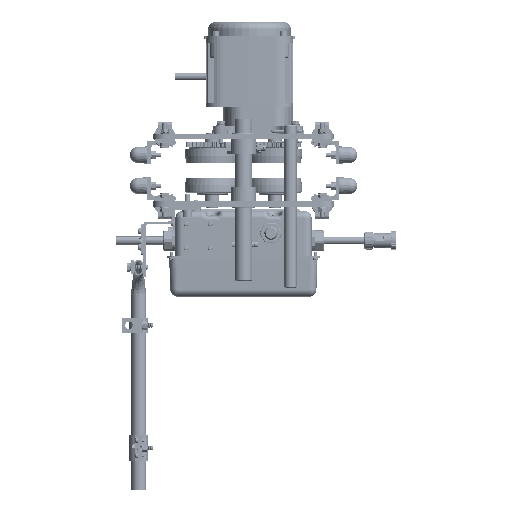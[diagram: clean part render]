
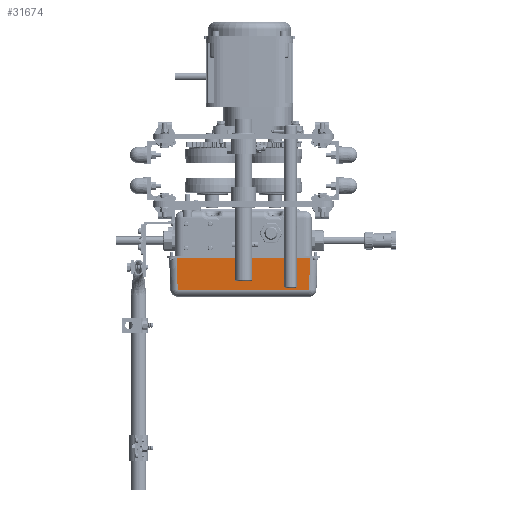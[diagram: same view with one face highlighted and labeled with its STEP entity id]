
A CAD part, front view. The second image highlights one B-rep face of the part: STEP entity #31674.
In plain terms, the highlighted planar face has unit normal (0, -0.999, -0.035) as drawn and (-0.035, -0.999, 0) by its records, which use the part's own axes.
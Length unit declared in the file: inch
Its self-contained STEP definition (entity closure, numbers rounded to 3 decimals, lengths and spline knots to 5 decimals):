
#2809 = VERTEX_POINT ( 'NONE', #134232 ) ;
#9503 = ORIENTED_EDGE ( 'NONE', *, *, #26238, .T. ) ;
#21928 = VECTOR ( 'NONE', #51010, 39.37008 ) ;
#23617 = CARTESIAN_POINT ( 'NONE',  ( -2.22259, 0.46994, 9.75453 ) ) ;
#24585 = LINE ( 'NONE', #51159, #143535 ) ;
#26238 = EDGE_CURVE ( 'NONE', #111731, #2809, #121932, .T. ) ;
#28797 = EDGE_CURVE ( 'NONE', #88082, #94899, #24585, .T. ) ;
#31674 = ADVANCED_FACE ( 'NONE', ( #43804 ), #73856, .T. ) ;
#32217 = DIRECTION ( 'NONE',  ( 0.999, -0.035, 0. ) ) ;
#42215 = DIRECTION ( 'NONE',  ( 0.999, -0.035, -0.035 ) ) ;
#43804 = FACE_OUTER_BOUND ( 'NONE', #127473, .T. ) ;
#43932 = LINE ( 'NONE', #97946, #90039 ) ;
#44674 = DIRECTION ( 'NONE',  ( -0.035, -0.999, 0. ) ) ;
#51010 = DIRECTION ( 'NONE',  ( 0., 0., -1. ) ) ;
#51159 = CARTESIAN_POINT ( 'NONE',  ( -2.69872, 0.48657, 9.7379 ) ) ;
#73856 = PLANE ( 'NONE',  #132009 ) ;
#88082 = VERTEX_POINT ( 'NONE', #109882 ) ;
#90039 = VECTOR ( 'NONE', #151920, 39.37008 ) ;
#90771 = ORIENTED_EDGE ( 'NONE', *, *, #109604, .F. ) ;
#94899 = VERTEX_POINT ( 'NONE', #23617 ) ;
#97946 = CARTESIAN_POINT ( 'NONE',  ( -2.22259, 0.46994, 10.47244 ) ) ;
#105157 = DIRECTION ( 'NONE',  ( -0.999, 0.035, -0.035 ) ) ;
#109604 = EDGE_CURVE ( 'NONE', #88082, #2809, #143102, .T. ) ;
#109882 = CARTESIAN_POINT ( 'NONE',  ( -0.03937, 0.3937, 9.83076 ) ) ;
#111731 = VERTEX_POINT ( 'NONE', #137543 ) ;
#119777 = ORIENTED_EDGE ( 'NONE', *, *, #28797, .T. ) ;
#121932 = LINE ( 'NONE', #163506, #152631 ) ;
#127473 = EDGE_LOOP ( 'NONE', ( #90771, #119777, #146223, #9503 ) ) ;
#132009 = AXIS2_PLACEMENT_3D ( 'NONE', #151792, #44674, #32217 ) ;
#133500 = EDGE_CURVE ( 'NONE', #94899, #111731, #43932, .T. ) ;
#134232 = CARTESIAN_POINT ( 'NONE',  ( -0.03937, 0.3937, 0.65822 ) ) ;
#137543 = CARTESIAN_POINT ( 'NONE',  ( -2.22259, 0.46994, 0.73446 ) ) ;
#143102 = LINE ( 'NONE', #172275, #21928 ) ;
#143535 = VECTOR ( 'NONE', #105157, 39.37008 ) ;
#146223 = ORIENTED_EDGE ( 'NONE', *, *, #133500, .T. ) ;
#151792 = CARTESIAN_POINT ( 'NONE',  ( -1.0803, 0.43005, 10.47244 ) ) ;
#151920 = DIRECTION ( 'NONE',  ( 0., 0., -1. ) ) ;
#152631 = VECTOR ( 'NONE', #42215, 39.37008 ) ;
#163506 = CARTESIAN_POINT ( 'NONE',  ( -1.42092, 0.44195, 0.70647 ) ) ;
#172275 = CARTESIAN_POINT ( 'NONE',  ( -0.03937, 0.3937, 10.47244 ) ) ;
